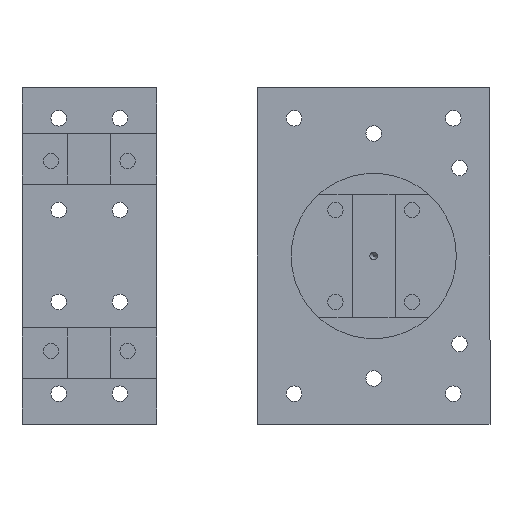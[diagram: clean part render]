
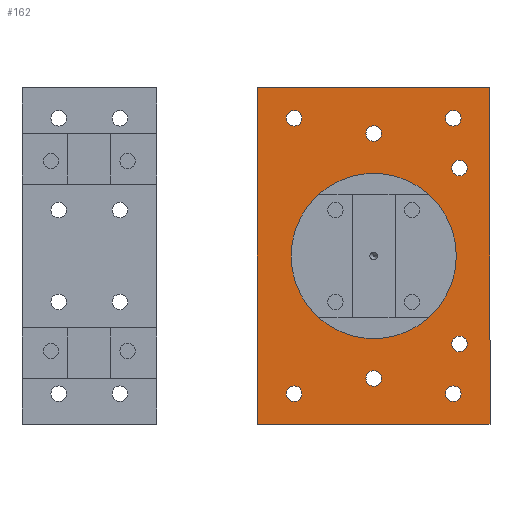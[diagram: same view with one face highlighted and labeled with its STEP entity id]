
A CAD part, front view. The second image highlights one B-rep face of the part: STEP entity #162.
In plain terms, the highlighted planar face has unit normal (0, -1, 0).
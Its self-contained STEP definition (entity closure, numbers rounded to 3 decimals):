
#162=ADVANCED_FACE('',(#1341,#1343,#1345,#1347,#1349,#1351,#1353,#1355,#1357,#1359),
#1361,.F.);
#1341=FACE_BOUND('',#1342,.T.);
#1342=EDGE_LOOP('',(#2504,#2505,#2506,#2507));
#1343=FACE_BOUND('',#1344,.T.);
#1344=EDGE_LOOP('',(#2508,#2509,#2510,#2511));
#1345=FACE_BOUND('',#1346,.T.);
#1346=EDGE_LOOP('',(#2512));
#1347=FACE_BOUND('',#1348,.T.);
#1348=EDGE_LOOP('',(#2513));
#1349=FACE_BOUND('',#1350,.T.);
#1350=EDGE_LOOP('',(#2514));
#1351=FACE_BOUND('',#1352,.T.);
#1352=EDGE_LOOP('',(#2515));
#1353=FACE_BOUND('',#1354,.T.);
#1354=EDGE_LOOP('',(#2516));
#1355=FACE_BOUND('',#1356,.T.);
#1356=EDGE_LOOP('',(#2517));
#1357=FACE_BOUND('',#1358,.T.);
#1358=EDGE_LOOP('',(#2518));
#1359=FACE_BOUND('',#1360,.T.);
#1360=EDGE_LOOP('',(#2519));
#1361=PLANE('',#1362);
#1362=AXIS2_PLACEMENT_3D('',#1363,#1364,#1365);
#1363=CARTESIAN_POINT('',(0.,-22.,0.));
#1364=DIRECTION('',(0.,1.,0.));
#1365=DIRECTION('',(0.,0.,-1.));
#2504=ORIENTED_EDGE('',*,*,#2928,.F.);
#2505=ORIENTED_EDGE('',*,*,#2929,.T.);
#2506=ORIENTED_EDGE('',*,*,#2930,.T.);
#2507=ORIENTED_EDGE('',*,*,#2931,.F.);
#2508=ORIENTED_EDGE('',*,*,#2932,.T.);
#2509=ORIENTED_EDGE('',*,*,#2933,.F.);
#2510=ORIENTED_EDGE('',*,*,#2934,.T.);
#2511=ORIENTED_EDGE('',*,*,#2935,.F.);
#2512=ORIENTED_EDGE('',*,*,#2936,.T.);
#2513=ORIENTED_EDGE('',*,*,#2937,.T.);
#2514=ORIENTED_EDGE('',*,*,#2938,.T.);
#2515=ORIENTED_EDGE('',*,*,#2939,.T.);
#2516=ORIENTED_EDGE('',*,*,#2940,.T.);
#2517=ORIENTED_EDGE('',*,*,#2941,.T.);
#2518=ORIENTED_EDGE('',*,*,#2942,.T.);
#2519=ORIENTED_EDGE('',*,*,#2943,.T.);
#2928=EDGE_CURVE('',#3140,#3141,#3142,.T.);
#2929=EDGE_CURVE('',#3140,#3143,#3144,.T.);
#2930=EDGE_CURVE('',#3143,#3145,#3146,.T.);
#2931=EDGE_CURVE('',#3141,#3145,#3147,.T.);
#2932=EDGE_CURVE('',#3148,#3149,#3150,.T.);
#2933=EDGE_CURVE('',#3151,#3149,#3152,.F.);
#2934=EDGE_CURVE('',#3151,#3153,#3154,.T.);
#2935=EDGE_CURVE('',#3148,#3153,#3155,.F.);
#2936=EDGE_CURVE('',#3156,#3156,#3157,.T.);
#2937=EDGE_CURVE('',#3158,#3158,#3159,.T.);
#2938=EDGE_CURVE('',#3160,#3160,#3161,.T.);
#2939=EDGE_CURVE('',#3162,#3162,#3163,.T.);
#2940=EDGE_CURVE('',#3164,#3164,#3165,.T.);
#2941=EDGE_CURVE('',#3166,#3166,#3167,.T.);
#2942=EDGE_CURVE('',#3168,#3168,#3169,.T.);
#2943=EDGE_CURVE('',#3170,#3170,#3171,.T.);
#3140=VERTEX_POINT('',#3528);
#3141=VERTEX_POINT('',#3529);
#3142=LINE('',#3530,#3531);
#3143=VERTEX_POINT('',#3533);
#3144=LINE('',#3534,#3535);
#3145=VERTEX_POINT('',#3537);
#3146=LINE('',#3538,#3539);
#3147=LINE('',#3541,#3542);
#3148=VERTEX_POINT('',#3544);
#3149=VERTEX_POINT('',#3545);
#3150=CIRCLE('',#3546,54.);
#3151=VERTEX_POINT('',#3550);
#3152=CIRCLE('',#3551,54.);
#3153=VERTEX_POINT('',#3555);
#3154=CIRCLE('',#3556,54.);
#3155=CIRCLE('',#3560,54.);
#3156=VERTEX_POINT('',#3564);
#3157=CIRCLE('',#3565,5.1);
#3158=VERTEX_POINT('',#3569);
#3159=CIRCLE('',#3570,5.1);
#3160=VERTEX_POINT('',#3574);
#3161=CIRCLE('',#3575,5.1);
#3162=VERTEX_POINT('',#3579);
#3163=CIRCLE('',#3580,5.1);
#3164=VERTEX_POINT('',#3584);
#3165=CIRCLE('',#3585,5.1);
#3166=VERTEX_POINT('',#3589);
#3167=CIRCLE('',#3590,5.1);
#3168=VERTEX_POINT('',#3594);
#3169=CIRCLE('',#3595,5.1);
#3170=VERTEX_POINT('',#3599);
#3171=CIRCLE('',#3600,5.1);
#3528=CARTESIAN_POINT('',(110.,-22.,-76.));
#3529=CARTESIAN_POINT('',(-110.,-22.,-76.));
#3530=CARTESIAN_POINT('',(110.,-22.,-76.));
#3531=VECTOR('',#3532,1.);
#3532=DIRECTION('',(-1.,0.,0.));
#3533=CARTESIAN_POINT('',(110.,-22.,76.));
#3534=CARTESIAN_POINT('',(110.,-22.,-76.));
#3535=VECTOR('',#3536,1.);
#3536=DIRECTION('',(0.,0.,1.));
#3537=CARTESIAN_POINT('',(-110.,-22.,76.));
#3538=CARTESIAN_POINT('',(110.,-22.,76.));
#3539=VECTOR('',#3540,1.);
#3540=DIRECTION('',(-1.,0.,0.));
#3541=CARTESIAN_POINT('',(-110.,-22.,-76.));
#3542=VECTOR('',#3543,1.);
#3543=DIRECTION('',(0.,0.,1.));
#3544=CARTESIAN_POINT('',(40.25,-22.,35.999));
#3545=CARTESIAN_POINT('',(40.25,-22.,-35.999));
#3546=AXIS2_PLACEMENT_3D('',#3547,#3548,#3549);
#3547=CARTESIAN_POINT('',(0.,-22.,0.));
#3548=DIRECTION('',(0.,1.,0.));
#3549=DIRECTION('',(0.745,0.,0.667));
#3550=CARTESIAN_POINT('',(-40.25,-22.,-35.999));
#3551=AXIS2_PLACEMENT_3D('',#3552,#3553,#3554);
#3552=CARTESIAN_POINT('',(0.,-22.,0.));
#3553=DIRECTION('',(0.,1.,0.));
#3554=DIRECTION('',(0.745,0.,-0.667));
#3555=CARTESIAN_POINT('',(-40.25,-22.,35.999));
#3556=AXIS2_PLACEMENT_3D('',#3557,#3558,#3559);
#3557=CARTESIAN_POINT('',(0.,-22.,0.));
#3558=DIRECTION('',(0.,1.,0.));
#3559=DIRECTION('',(-0.745,0.,-0.667));
#3560=AXIS2_PLACEMENT_3D('',#3561,#3562,#3563);
#3561=CARTESIAN_POINT('',(0.,-22.,0.));
#3562=DIRECTION('',(0.,1.,0.));
#3563=DIRECTION('',(-0.745,0.,0.667));
#3564=CARTESIAN_POINT('',(-90.,-22.,-57.1));
#3565=AXIS2_PLACEMENT_3D('',#3566,#3567,#3568);
#3566=CARTESIAN_POINT('',(-90.,-22.,-52.));
#3567=DIRECTION('',(0.,1.,0.));
#3568=DIRECTION('',(-0.,0.,1.));
#3569=CARTESIAN_POINT('',(90.,-22.,-57.1));
#3570=AXIS2_PLACEMENT_3D('',#3571,#3572,#3573);
#3571=CARTESIAN_POINT('',(90.,-22.,-52.));
#3572=DIRECTION('',(0.,1.,0.));
#3573=DIRECTION('',(-0.,0.,1.));
#3574=CARTESIAN_POINT('',(-90.,-22.,46.9));
#3575=AXIS2_PLACEMENT_3D('',#3576,#3577,#3578);
#3576=CARTESIAN_POINT('',(-90.,-22.,52.));
#3577=DIRECTION('',(0.,1.,0.));
#3578=DIRECTION('',(-0.,0.,1.));
#3579=CARTESIAN_POINT('',(-80.,-22.,-5.1));
#3580=AXIS2_PLACEMENT_3D('',#3581,#3582,#3583);
#3581=CARTESIAN_POINT('',(-80.,-22.,0.));
#3582=DIRECTION('',(0.,1.,0.));
#3583=DIRECTION('',(-0.,0.,1.));
#3584=CARTESIAN_POINT('',(-57.5,-22.,-61.1));
#3585=AXIS2_PLACEMENT_3D('',#3586,#3587,#3588);
#3586=CARTESIAN_POINT('',(-57.5,-22.,-56.));
#3587=DIRECTION('',(0.,1.,0.));
#3588=DIRECTION('',(-0.,0.,1.));
#3589=CARTESIAN_POINT('',(57.5,-22.,-61.1));
#3590=AXIS2_PLACEMENT_3D('',#3591,#3592,#3593);
#3591=CARTESIAN_POINT('',(57.5,-22.,-56.));
#3592=DIRECTION('',(0.,1.,0.));
#3593=DIRECTION('',(-0.,0.,1.));
#3594=CARTESIAN_POINT('',(80.,-22.,-5.1));
#3595=AXIS2_PLACEMENT_3D('',#3596,#3597,#3598);
#3596=CARTESIAN_POINT('',(80.,-22.,0.));
#3597=DIRECTION('',(0.,1.,0.));
#3598=DIRECTION('',(-0.,0.,1.));
#3599=CARTESIAN_POINT('',(90.,-22.,46.9));
#3600=AXIS2_PLACEMENT_3D('',#3601,#3602,#3603);
#3601=CARTESIAN_POINT('',(90.,-22.,52.));
#3602=DIRECTION('',(0.,1.,0.));
#3603=DIRECTION('',(-0.,0.,1.));
